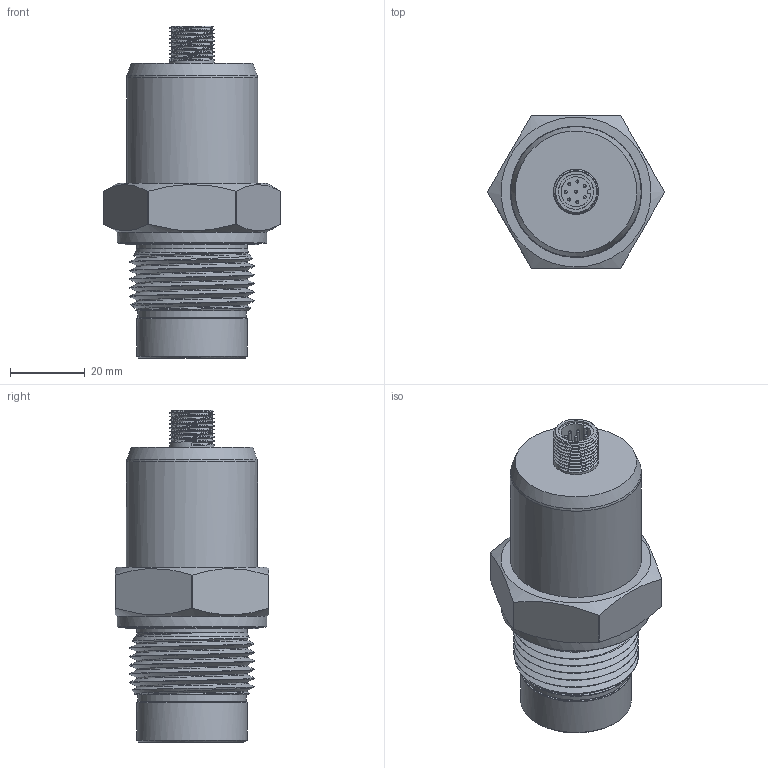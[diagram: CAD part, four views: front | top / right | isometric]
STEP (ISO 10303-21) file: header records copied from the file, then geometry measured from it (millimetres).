
FILE_DESCRIPTION((''),'2;1');
FILE_NAME('U:\Users\r.kraemer\31085701.stp','2015-02-18T13:09:08',( 'User'),('SDRC'),'I-DEAS Master Series 9','UNIX','Yes');
FILE_SCHEMA(('CONFIG_CONTROL_DESIGN', 'GEOMETRIC_VALIDATION_PROPERTIES_MIM','SHAPE_APPEARANCE_LAYER_MIM'));
Length unit declared in the file: millimetre
Bounding box: 47.27 x 41 x 88.6 mm (x, y, z)
Volume: 43808.4 mm3; surface area: 22058.2 mm2
Topology: 1 solids, 2 shells, 126 faces, 286 edges, 183 vertices
Faces by surface type: bspline 126
Entity records: 14134 total; most frequent: CARTESIAN_POINT 12195, ORIENTED_EDGE 556, EDGE_CURVE 278, VERTEX_POINT 183, EDGE_LOOP 153, B_SPLINE_CURVE_WITH_KNOTS 133, FACE_OUTER_BOUND 126, ADVANCED_FACE 126
